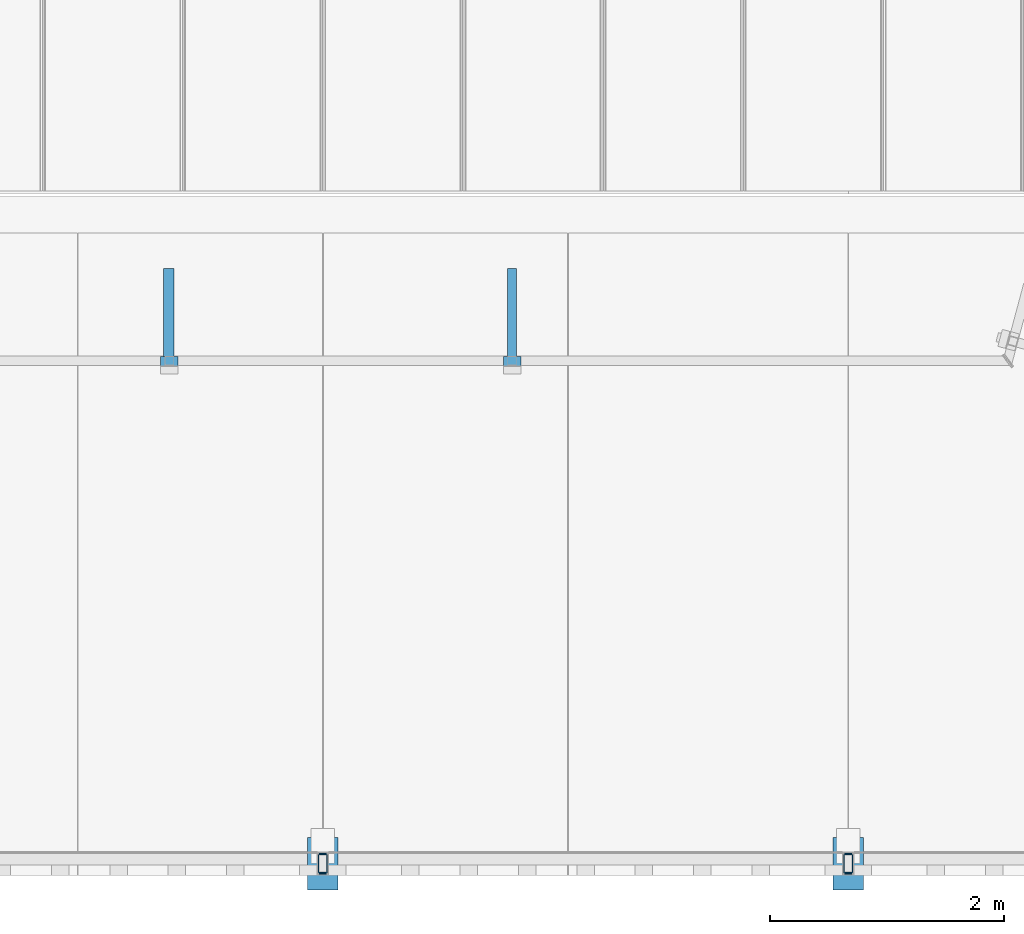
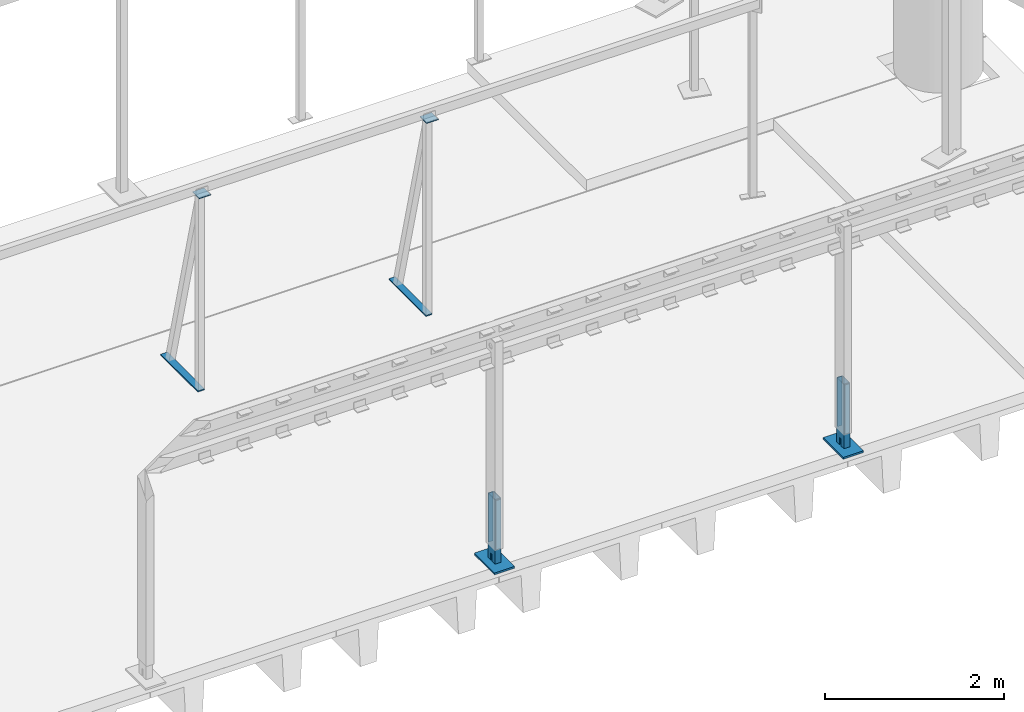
# One storey, part 7 of 19: 12 columns.
"""IFC2X3 building model written with IfcOpenShell, lengths in millimetres."""

from ifc_helpers import new_model, entity, si_unit, converted_unit, derived_unit, direction, frame, origin_with_axes, place, context, subcontext, project, spatial, faceted_brep, material, type_object, element, save


model = new_model("IFC2X3")

# Units and contexts
model_context = context("Model", 3, precision=0.01, world=frame((0.0, 4.29681676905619e-09, 0.0)), true_north=direction((4.01073788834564e-13, 1.0)))
plan_context = context("Plan", 3, precision=0.01, world=frame((0.0, 4.29681676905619e-09, 0.0)), true_north=direction((4.01073788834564e-13, 1.0)))
body_context = subcontext(model_context, "Body", "Model", "MODEL_VIEW")
ifc_project = project(units=[converted_unit("PLANEANGLEUNIT", "DEGREE", entity("IfcPositiveLengthMeasure", 0.0174532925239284), si_unit("PLANEANGLEUNIT", "RADIAN"), dimensions=[0, 0, 0, 0, 0, 0, 0]), si_unit("AREAUNIT", "SQUARE_METRE"), si_unit("LENGTHUNIT", "METRE", prefix="MILLI"), si_unit("MASSUNIT", "GRAM", prefix="KILO"), si_unit("POWERUNIT", "WATT"), si_unit("PRESSUREUNIT", "PASCAL", prefix="KILO"), si_unit("FORCEUNIT", "NEWTON", prefix="KILO"), si_unit("ELECTRICVOLTAGEUNIT", "VOLT"), si_unit("ELECTRICCURRENTUNIT", "AMPERE"), si_unit("THERMODYNAMICTEMPERATUREUNIT", "DEGREE_CELSIUS"), si_unit("TIMEUNIT", "SECOND"), si_unit("VOLUMEUNIT", "CUBIC_METRE"), derived_unit("LINEARVELOCITYUNIT", [(si_unit("LENGTHUNIT", "METRE"), 1), (si_unit("TIMEUNIT", "SECOND"), -1)]), derived_unit("VOLUMETRICFLOWRATEUNIT", [(si_unit("VOLUMEUNIT", "CUBIC_METRE"), 1), (si_unit("TIMEUNIT", "SECOND"), -1)]), derived_unit("THERMALTRANSMITTANCEUNIT", [(si_unit("POWERUNIT", "WATT"), 1), (si_unit("THERMODYNAMICTEMPERATUREUNIT", "KELVIN"), -1), (si_unit("AREAUNIT", "SQUARE_METRE"), -1)]), derived_unit("SOUNDPRESSUREUNIT", [(si_unit("PRESSUREUNIT", "PASCAL"), 1)])], contexts=[model_context, plan_context])

# Site, building, storey
site_placement = place(None, frame((0.0, -4.29681676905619e-09, 0.0), z_axis=(0.0, 0.0, 1.0), x_axis=(1.0, 0.0, 0.0)))
site = spatial("IfcSite", under=ifc_project, at=site_placement, Name="Gardermoen", CompositionType="ELEMENT")
building_placement = place(site_placement, frame((0.0, 4.29681676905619e-09, 0.0), z_axis=(0.0, 0.0, 1.0), x_axis=(1.0, 0.0, 0.0)))
building = spatial("IfcBuilding", under=site, at=building_placement, Name="TI", CompositionType="ELEMENT")
storey_placement = place(building_placement, origin_with_axes())
storey = spatial("IfcBuildingStorey", under=building, at=storey_placement, Name="F", CompositionType="ELEMENT", Elevation=0.0)

# Columns
ifc_material_1 = material(Name="STEEL/S355J0")
column_type_1 = type_object("IfcColumnType", Name="PL10*150", PredefinedType="NOTDEFINED")
for number, where, z_axis, x_axis in (
    (1, (593545.23229842, 574096.757824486, 213573.0), (0.0, 1.0, 0.0), (1.0, 0.0, 0.0)),
    (2, (590610.23229842, 574096.757824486, 213573.0), (0.0, 1.0, 0.0), (1.0, 0.0, 0.0)),
):
    element("IfcColumn", number, at=place(storey_placement, frame(where, z_axis=z_axis, x_axis=x_axis)), inside=storey, type_object=column_type_1, material=ifc_material_1, Name="STÅLSØYLE", ObjectType="PL10*150", context=body_context, shape_type="Brep", body=[
        faceted_brep([(0.0, 5.0, -75.0), (0.0, 5.0, 75.0), (149.999999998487, 5.0, 75.0000000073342), (150.000000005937, 5.0, -74.9999999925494), (0.0, -5.0, 75.0), (149.999999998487, -5.0, 75.0000000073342), (0.0, -5.0, -75.0), (150.000000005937, -5.0, -74.9999999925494)], [[[0, 1, 2, 3]], [[1, 4, 5, 2]], [[4, 6, 7, 5]], [[6, 0, 3, 7]], [[5, 7, 3, 2]], [[6, 4, 1, 0]]]),
    ])
ifc_material_2 = material(Name="STEEL/S355")
column_type_2 = type_object("IfcColumnType", Name="PL25*260", PredefinedType="NOTDEFINED")
for number, where, z_axis, x_axis in (
    (3, (592000.000043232, 569605.0, 210692.5), (-1.0, 0.0, 0.0), (0.0, 1.0, 0.0)),
    (4, (596500.000043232, 569605.0, 210692.5), (-1.0, 0.0, 0.0), (0.0, 1.0, 0.0)),
):
    element("IfcColumn", number, at=place(storey_placement, frame(where, z_axis=z_axis, x_axis=x_axis)), inside=storey, type_object=column_type_2, material=ifc_material_2, Name="STÅLSØYLE", ObjectType="PL25*260", context=body_context, shape_type="Brep", body=[
        faceted_brep([(-5.82076609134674e-10, 12.5, -130.0), (-5.82076609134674e-10, 12.5, 130.0), (449.999999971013, 12.5, 129.999999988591), (449.999999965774, 12.5, -130.000000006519), (3.49245965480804e-10, -12.4999999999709, 130.0), (449.999999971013, -12.5, 129.999999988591), (3.49245965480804e-10, -12.4999999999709, -130.0), (449.999999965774, -12.5, -130.000000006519)], [[[0, 1, 2, 3]], [[1, 4, 5, 2]], [[4, 6, 7, 5]], [[6, 0, 3, 7]], [[5, 7, 3, 2]], [[6, 4, 1, 0]]]),
    ])
column_type_3 = type_object("IfcColumnType", Name="PL15*90", PredefinedType="NOTDEFINED")
column_1_placement = place(storey_placement, frame((590725.227775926, 574096.757536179, 210887.5), z_axis=(-1.0, 0.0, 0.0), x_axis=(0.0, 1.0, 0.0)))
element("IfcColumn", 5, at=column_1_placement, inside=storey, type_object=column_type_3, material=ifc_material_2, Name="STÅLSØYLE", ObjectType="PL15*90", context=body_context, shape_type="Brep", body=[
    faceted_brep([(0.0, -7.5, 0.0), (-0.000629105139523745, -7.5, 89.9989318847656), (-0.000629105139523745, 7.5, 89.9989318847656), (0.0, 7.5, 0.0), (829.999389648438, -7.5, 89.9989318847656), (829.999389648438, 7.5, 89.9989318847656), (830.0, -7.5, 1.39698386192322e-08), (830.0, 7.5, 1.39698386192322e-08)], [[[0, 1, 2, 3]], [[1, 4, 5, 2]], [[4, 6, 7, 5]], [[6, 0, 3, 7]], [[5, 7, 3, 2]], [[6, 4, 1, 0]]]),
])
column_type_4 = type_object("IfcColumnType", Name="PL15*80", PredefinedType="NOTDEFINED")
column_2_placement = place(storey_placement, frame((593660.227775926, 574096.757536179, 210887.5), z_axis=(-1.0, 0.0, 0.0), x_axis=(0.0, 1.0, 0.0)))
element("IfcColumn", 6, at=column_2_placement, inside=storey, type_object=column_type_4, material=ifc_material_2, Name="STÅLSØYLE", ObjectType="PL15*80", context=body_context, shape_type="Brep", body=[
    faceted_brep([(0.0, -7.5, 0.0), (-0.000629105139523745, -7.5, 79.9989318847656), (-0.000629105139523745, 7.5, 79.9989318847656), (0.0, 7.5, 0.0), (829.999389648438, -7.5, 79.9989318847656), (829.999389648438, 7.5, 79.9989318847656), (830.0, -7.5, 1.39698386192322e-08), (830.0, 7.5, 1.39698386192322e-08)], [[[0, 1, 2, 3]], [[1, 4, 5, 2]], [[4, 6, 7, 5]], [[6, 0, 3, 7]], [[5, 7, 3, 2]], [[6, 4, 1, 0]]]),
])
column_type_5 = type_object("IfcColumnType", Name="PL60*10", PredefinedType="NOTDEFINED")
for number, where, z_axis, x_axis in (
    (7, (596499.995350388, 569744.992696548, 210905.000686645), (-0.999999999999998, 5.80000057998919e-08, 0.0), (0.0, 0.0, 1.0)),
    (8, (596499.995350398, 569914.998741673, 210905.000686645), (-0.999999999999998, 5.80000057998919e-08, 0.0), (0.0, 0.0, 1.0)),
    (9, (591999.995350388, 569744.992696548, 210905.000686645), (-0.999999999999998, 5.80000057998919e-08, 0.0), (0.0, 0.0, 1.0)),
    (10, (591999.995350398, 569914.998741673, 210905.000686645), (-0.999999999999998, 5.80000057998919e-08, 0.0), (0.0, 0.0, 1.0)),
):
    element("IfcColumn", number, at=place(storey_placement, frame(where, z_axis=z_axis, x_axis=x_axis)), inside=storey, type_object=column_type_5, material=ifc_material_2, Name="STÅLSØYLE", ObjectType="PL60*10", context=body_context, shape_type="Brep", body=[
        faceted_brep([(2.3283064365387e-10, 5.00000000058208, -29.9999999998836), (-1.74622982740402e-10, 4.99999999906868, 29.9999999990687), (670.0, 5.0, 30.0), (670.0, 5.0, -30.0), (-2.03726813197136e-10, -5.0000000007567, 30.0), (670.0, -5.0, 30.0), (2.3283064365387e-10, -4.99999999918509, -29.9999999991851), (670.0, -5.0, -30.0)], [[[0, 1, 2, 3]], [[1, 4, 5, 2]], [[4, 6, 7, 5]], [[6, 0, 3, 7]], [[5, 7, 3, 2]], [[6, 4, 1, 0]]]),
    ])
column_type_6 = type_object("IfcColumnType", Name="RHS160*80*8", PredefinedType="NOTDEFINED")
for number, where, z_axis, x_axis in (
    (11, (592000.000043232, 569830.0, 210680.0), (0.0, 1.0, 0.0), (0.0, 0.0, 1.0)),
    (12, (596500.000043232, 569830.0, 210680.0), (0.0, 1.0, 0.0), (0.0, 0.0, 1.0)),
):
    element("IfcColumn", number, at=place(storey_placement, frame(where, z_axis=z_axis, x_axis=x_axis)), inside=storey, type_object=column_type_6, material=ifc_material_2, Name="STÅLSØYLE", ObjectType="RHS160*80*8", context=body_context, shape_type="Brep", body=[
        faceted_brep([(125.000000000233, -40.0, -13.9999999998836), (125.000000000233, -32.0, -13.9999999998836), (25.0, -32.0, -13.9999999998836), (25.0, -40.0, -13.9999999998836), (125.000000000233, -40.0, 14.0000000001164), (125.000000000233, -32.0, 14.0000000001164), (25.0, -40.0, 14.0000000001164), (25.0, -32.0, 14.0000000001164), (25.0, -32.0, 72.0), (25.0, 32.0, 72.0), (900.000686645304, 32.0, 72.0), (900.000686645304, -32.0, 72.0), (25.0, 40.0, 80.0), (25.0, -40.0, 80.0), (900.000686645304, -40.0, 80.0), (900.000686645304, 40.0, 80.0), (25.0, 32.0, 13.9999999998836), (25.0, 40.0, 13.9999999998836), (125.000000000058, 40.0, 13.9999999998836), (125.000000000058, 32.0, 13.9999999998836), (900.000686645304, 40.0, -80.0), (25.0, 40.0, -80.0), (25.0, 40.0, -14.0000000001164), (125.000000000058, 40.0, -14.0000000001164), (125.000000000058, 32.0, -14.0000000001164), (25.0, 32.0, -14.0000000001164), (25.0, 32.0, -72.0), (900.000686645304, 32.0, -72.0), (25.0, -32.0, -72.0), (900.000686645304, -32.0, -72.0), (900.000686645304, -40.0, -80.0), (25.0, -40.0, -80.0)], [[[0, 1, 2, 3]], [[4, 5, 1, 0]], [[6, 7, 5, 4]], [[8, 9, 10, 11]], [[12, 13, 14, 15]], [[16, 17, 18, 19]], [[12, 15, 20, 21, 22, 23, 18, 17]], [[24, 23, 22, 25]], [[19, 18, 23, 24]], [[25, 26, 27, 10, 9, 16, 19, 24]], [[26, 28, 29, 27]], [[14, 30, 20, 15], [11, 10, 27, 29]], [[31, 21, 20, 30]], [[28, 26, 25, 22, 21, 31, 3, 2]], [[8, 11, 29, 28, 2, 1, 5, 7]], [[13, 12, 17, 16, 9, 8, 7, 6]], [[3, 31, 30, 14, 13, 6, 4, 0]]]),
    ])

save(model, "model.ifc")
